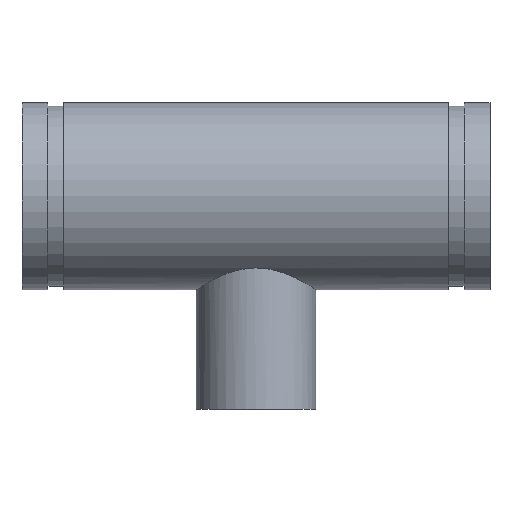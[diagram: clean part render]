
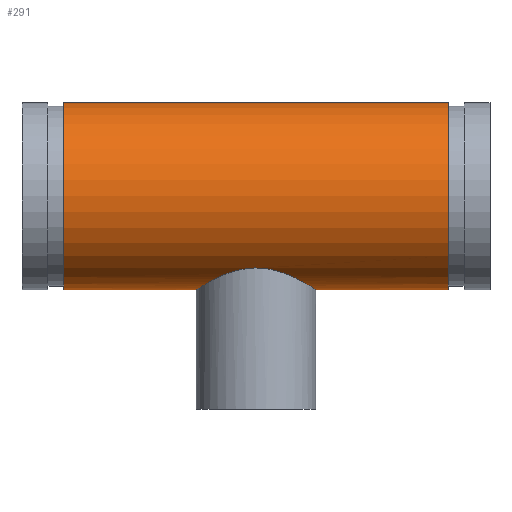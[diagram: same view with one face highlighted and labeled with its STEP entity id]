
A CAD part, top view. The second image highlights one B-rep face of the part: STEP entity #291.
In plain terms, the highlighted cylindrical face has radius 57.15 mm (diameter 114.3 mm), a full revolution.
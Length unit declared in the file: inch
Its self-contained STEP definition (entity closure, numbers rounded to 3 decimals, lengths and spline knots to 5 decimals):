
#45=B_SPLINE_CURVE_WITH_KNOTS('',3,(#511,#512,#513,#514,#515,#516,#517,
#518,#519,#520,#521,#522,#523,#524,#525,#526,#527,#528,#529,#530,#531,#532,
#533,#534,#535,#536,#537,#538,#539,#540,#541,#542,#543,#544,#545,#546,#547,
#548,#549,#550,#551,#552,#553,#554,#555,#556,#557,#558,#559,#560),
 .UNSPECIFIED.,.F.,.F.,(4,2,2,2,2,2,2,2,2,2,2,2,2,2,2,2,2,2,2,2,2,2,2,2,
4),(0.,0.71641,1.43281,2.14922,2.86562,
3.5757,4.28578,4.99586,5.70593,6.41601,
7.12609,7.83617,8.54625,9.26265,9.97906,
10.69546,11.41187,12.12827,12.84468,13.56108,
14.27749,14.98757,15.69765,16.40772,17.1178),
 .UNSPECIFIED.);
#46=B_SPLINE_CURVE_WITH_KNOTS('',3,(#561,#562,#563,#564,#565,#566,#567,
#568,#569,#570,#571,#572,#573,#574,#575,#576,#577,#578),.UNSPECIFIED.,.F.,
 .F.,(4,2,2,2,2,2,2,2,4),(17.1178,17.82788,18.53796,
19.24804,19.95811,20.67452,21.39092,22.10733,
22.82374),.UNSPECIFIED.);
#51=LINE('',#508,#59);
#59=VECTOR('',#410,2.25);
#67=CYLINDRICAL_SURFACE('',#338,2.25);
#77=FACE_BOUND('',#108,.T.);
#88=FACE_OUTER_BOUND('',#107,.T.);
#107=EDGE_LOOP('',(#221,#222,#223,#224));
#108=EDGE_LOOP('',(#225,#226));
#121=CIRCLE('',#321,2.25);
#132=CIRCLE('',#337,2.25);
#141=VERTEX_POINT('',#476);
#152=VERTEX_POINT('',#505);
#153=VERTEX_POINT('',#509);
#154=VERTEX_POINT('',#510);
#165=EDGE_CURVE('',#141,#141,#121,.T.);
#178=EDGE_CURVE('',#152,#152,#132,.T.);
#179=EDGE_CURVE('',#152,#141,#51,.T.);
#180=EDGE_CURVE('',#153,#154,#45,.T.);
#181=EDGE_CURVE('',#154,#153,#46,.T.);
#221=ORIENTED_EDGE('',*,*,#178,.T.);
#222=ORIENTED_EDGE('',*,*,#179,.T.);
#223=ORIENTED_EDGE('',*,*,#165,.T.);
#224=ORIENTED_EDGE('',*,*,#179,.F.);
#225=ORIENTED_EDGE('',*,*,#180,.F.);
#226=ORIENTED_EDGE('',*,*,#181,.F.);
#291=ADVANCED_FACE('',(#88,#77),#67,.T.);
#321=AXIS2_PLACEMENT_3D('',#477,#372,#373);
#337=AXIS2_PLACEMENT_3D('',#506,#406,#407);
#338=AXIS2_PLACEMENT_3D('',#507,#408,#409);
#372=DIRECTION('center_axis',(-1.,0.,0.));
#373=DIRECTION('ref_axis',(0.,-1.,0.));
#406=DIRECTION('center_axis',(1.,0.,0.));
#407=DIRECTION('ref_axis',(0.,-1.,0.));
#408=DIRECTION('center_axis',(-1.,0.,0.));
#409=DIRECTION('ref_axis',(0.,-1.,0.));
#410=DIRECTION('',(1.,0.,0.));
#476=CARTESIAN_POINT('',(4.63,2.25,0.));
#477=CARTESIAN_POINT('Origin',(4.63,0.,0.));
#505=CARTESIAN_POINT('',(-4.63,2.25,0.));
#506=CARTESIAN_POINT('Origin',(-4.63,0.,0.));
#507=CARTESIAN_POINT('Origin',(5.63,0.,0.));
#508=CARTESIAN_POINT('',(5.63,2.25,0.));
#509=CARTESIAN_POINT('',(0.,-1.73092,-1.4375));
#510=CARTESIAN_POINT('',(-1.4375,-2.25,0.));
#511=CARTESIAN_POINT('Ctrl Pts',(0.,-1.73092,
-1.4375));
#512=CARTESIAN_POINT('Ctrl Pts',(0.09402,-1.73092,-1.4375));
#513=CARTESIAN_POINT('Ctrl Pts',(0.18975,-1.73882,-1.42815));
#514=CARTESIAN_POINT('Ctrl Pts',(0.37779,-1.76924,-1.39028));
#515=CARTESIAN_POINT('Ctrl Pts',(0.47012,-1.79168,-1.36179));
#516=CARTESIAN_POINT('Ctrl Pts',(0.64575,-1.84556,-1.28783));
#517=CARTESIAN_POINT('Ctrl Pts',(0.72923,-1.87696,-1.24229));
#518=CARTESIAN_POINT('Ctrl Pts',(0.88329,-1.94201,-1.13792));
#519=CARTESIAN_POINT('Ctrl Pts',(0.95388,-1.97562,-1.07905));
#520=CARTESIAN_POINT('Ctrl Pts',(1.0785,-2.03872,-0.95443));
#521=CARTESIAN_POINT('Ctrl Pts',(1.13727,-2.07066,-0.88414));
#522=CARTESIAN_POINT('Ctrl Pts',(1.24184,-2.12988,-0.73001));
#523=CARTESIAN_POINT('Ctrl Pts',(1.28764,-2.15714,-0.64618));
#524=CARTESIAN_POINT('Ctrl Pts',(1.36195,-2.2023,-0.46975));
#525=CARTESIAN_POINT('Ctrl Pts',(1.39051,-2.22022,-0.37697));
#526=CARTESIAN_POINT('Ctrl Pts',(1.42829,-2.24408,-0.18869));
#527=CARTESIAN_POINT('Ctrl Pts',(1.4375,-2.25,-0.09319));
#528=CARTESIAN_POINT('Ctrl Pts',(1.4375,-2.25,0.09319));
#529=CARTESIAN_POINT('Ctrl Pts',(1.42829,-2.24408,0.18869));
#530=CARTESIAN_POINT('Ctrl Pts',(1.39051,-2.22022,0.37697));
#531=CARTESIAN_POINT('Ctrl Pts',(1.36195,-2.2023,0.46975));
#532=CARTESIAN_POINT('Ctrl Pts',(1.28764,-2.15714,0.64618));
#533=CARTESIAN_POINT('Ctrl Pts',(1.24184,-2.12988,0.73001));
#534=CARTESIAN_POINT('Ctrl Pts',(1.13727,-2.07066,0.88414));
#535=CARTESIAN_POINT('Ctrl Pts',(1.0785,-2.03872,0.95443));
#536=CARTESIAN_POINT('Ctrl Pts',(0.95388,-1.97562,1.07905));
#537=CARTESIAN_POINT('Ctrl Pts',(0.88329,-1.94201,1.13792));
#538=CARTESIAN_POINT('Ctrl Pts',(0.72923,-1.87696,1.24229));
#539=CARTESIAN_POINT('Ctrl Pts',(0.64575,-1.84556,1.28783));
#540=CARTESIAN_POINT('Ctrl Pts',(0.47012,-1.79168,1.36179));
#541=CARTESIAN_POINT('Ctrl Pts',(0.37779,-1.76924,1.39028));
#542=CARTESIAN_POINT('Ctrl Pts',(0.18975,-1.73882,1.42815));
#543=CARTESIAN_POINT('Ctrl Pts',(0.09402,-1.73092,1.4375));
#544=CARTESIAN_POINT('Ctrl Pts',(-0.09402,-1.73092,
1.4375));
#545=CARTESIAN_POINT('Ctrl Pts',(-0.18975,-1.73882,1.42815));
#546=CARTESIAN_POINT('Ctrl Pts',(-0.37779,-1.76924,1.39028));
#547=CARTESIAN_POINT('Ctrl Pts',(-0.47012,-1.79168,1.36179));
#548=CARTESIAN_POINT('Ctrl Pts',(-0.64575,-1.84556,1.28783));
#549=CARTESIAN_POINT('Ctrl Pts',(-0.72923,-1.87696,1.24229));
#550=CARTESIAN_POINT('Ctrl Pts',(-0.88329,-1.94201,1.13792));
#551=CARTESIAN_POINT('Ctrl Pts',(-0.95388,-1.97562,1.07905));
#552=CARTESIAN_POINT('Ctrl Pts',(-1.0785,-2.03872,0.95443));
#553=CARTESIAN_POINT('Ctrl Pts',(-1.13727,-2.07066,0.88414));
#554=CARTESIAN_POINT('Ctrl Pts',(-1.24184,-2.12988,0.73001));
#555=CARTESIAN_POINT('Ctrl Pts',(-1.28764,-2.15714,0.64618));
#556=CARTESIAN_POINT('Ctrl Pts',(-1.36195,-2.2023,0.46975));
#557=CARTESIAN_POINT('Ctrl Pts',(-1.39051,-2.22022,0.37697));
#558=CARTESIAN_POINT('Ctrl Pts',(-1.42829,-2.24408,0.18869));
#559=CARTESIAN_POINT('Ctrl Pts',(-1.4375,-2.25,0.09319));
#560=CARTESIAN_POINT('Ctrl Pts',(-1.4375,-2.25,0.));
#561=CARTESIAN_POINT('Ctrl Pts',(-1.4375,-2.25,0.));
#562=CARTESIAN_POINT('Ctrl Pts',(-1.4375,-2.25,-0.09319));
#563=CARTESIAN_POINT('Ctrl Pts',(-1.42829,-2.24408,-0.18869));
#564=CARTESIAN_POINT('Ctrl Pts',(-1.39051,-2.22022,-0.37697));
#565=CARTESIAN_POINT('Ctrl Pts',(-1.36195,-2.2023,-0.46975));
#566=CARTESIAN_POINT('Ctrl Pts',(-1.28764,-2.15714,-0.64618));
#567=CARTESIAN_POINT('Ctrl Pts',(-1.24184,-2.12988,-0.73001));
#568=CARTESIAN_POINT('Ctrl Pts',(-1.13727,-2.07066,-0.88414));
#569=CARTESIAN_POINT('Ctrl Pts',(-1.0785,-2.03872,-0.95443));
#570=CARTESIAN_POINT('Ctrl Pts',(-0.95388,-1.97562,-1.07905));
#571=CARTESIAN_POINT('Ctrl Pts',(-0.88329,-1.94201,-1.13792));
#572=CARTESIAN_POINT('Ctrl Pts',(-0.72923,-1.87696,-1.24229));
#573=CARTESIAN_POINT('Ctrl Pts',(-0.64575,-1.84556,-1.28783));
#574=CARTESIAN_POINT('Ctrl Pts',(-0.47012,-1.79168,-1.36179));
#575=CARTESIAN_POINT('Ctrl Pts',(-0.37779,-1.76924,-1.39028));
#576=CARTESIAN_POINT('Ctrl Pts',(-0.18975,-1.73882,-1.42815));
#577=CARTESIAN_POINT('Ctrl Pts',(-0.09402,-1.73092,
-1.4375));
#578=CARTESIAN_POINT('Ctrl Pts',(0.,-1.73092,
-1.4375));
